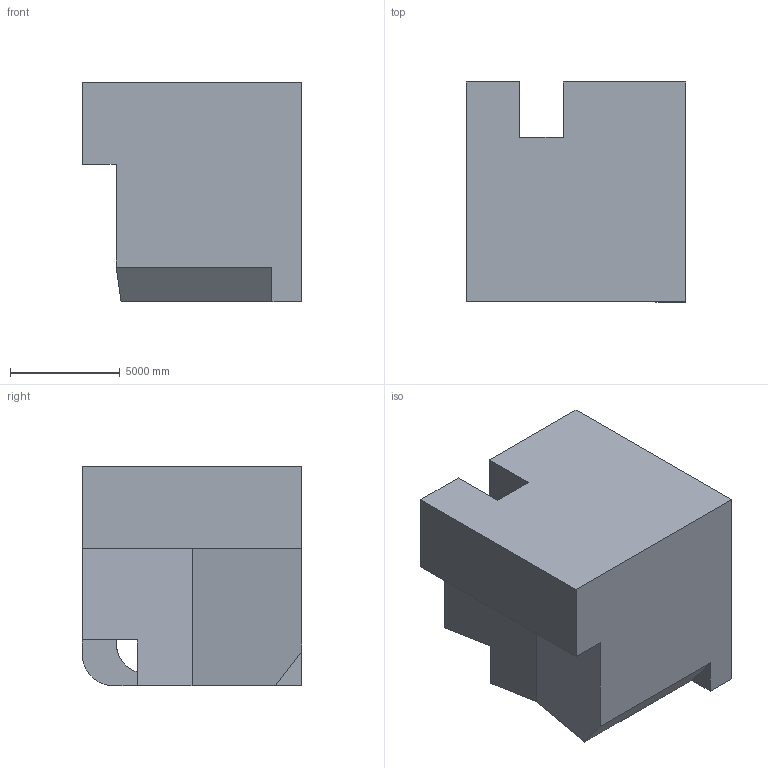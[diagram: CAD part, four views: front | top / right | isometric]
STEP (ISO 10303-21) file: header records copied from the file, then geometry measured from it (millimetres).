
FILE_DESCRIPTION (( 'STEP AP203' ), '1' );
FILE_NAME ('508.STEP', '2022-07-29T11:34:13', ( 'user' ), ( '' ), 'SwSTEP 2.0', 'SolidWorks 2021', '' );
FILE_SCHEMA (( 'CONFIG_CONTROL_DESIGN' ));
Length unit declared in the file: centimetre
Products named in the file (1): 508
Bounding box: 10000 x 10000 x 10000 mm (x, y, z)
Volume: 764252974360.6 mm3; surface area: 635198917.2 mm2
Topology: 1 solids, 1 shells, 22 faces, 63 edges, 42 vertices
Faces by surface type: plane 19, cylinder 3
Entity records: 797 total; most frequent: CARTESIAN_POINT 128, ORIENTED_EDGE 126, DIRECTION 118, EDGE_CURVE 63, VECTOR 54, LINE 54, VERTEX_POINT 42, AXIS2_PLACEMENT_3D 32
